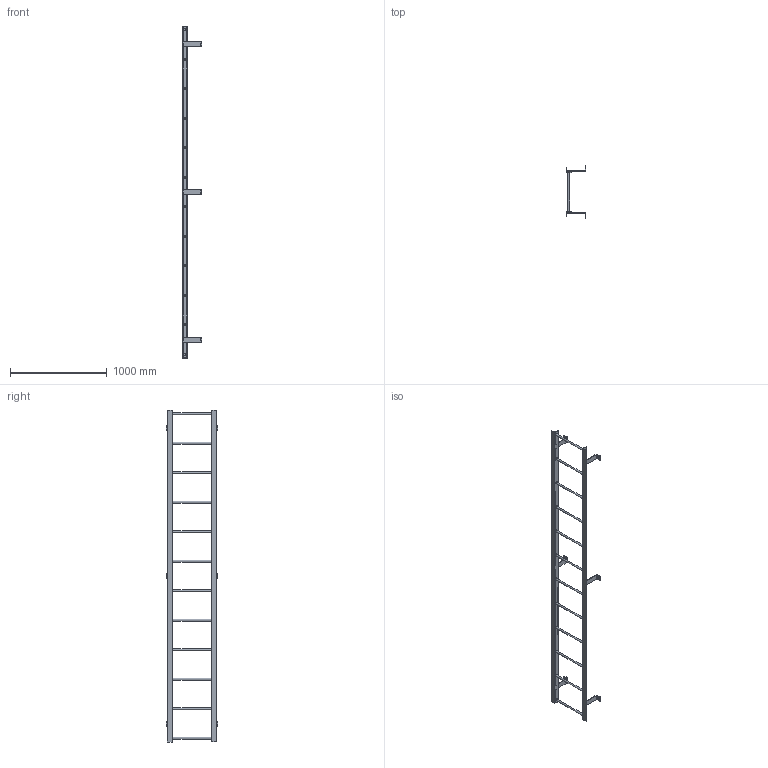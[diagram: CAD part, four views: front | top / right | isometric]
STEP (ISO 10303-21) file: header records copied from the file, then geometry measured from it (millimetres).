
FILE_DESCRIPTION(/* description */ (''),/* implementation_level */ '2;1');
FILE_NAME(/* name */ 'P:\MIKEL & KAREN\3570212 F12S SIMPLIFIED PART.stp',/* time_stamp */ '2018-07-02T15:27:59-04:00',/* author */ ('stephanie'),/* organization */ (''),/* preprocessor_version */ 'ST-DEVELOPER v16.1',/* originating_system */ 'Autodesk Inventor 2016',/* authorisation */ '');
FILE_SCHEMA (('AUTOMOTIVE_DESIGN { 1 0 10303 214 3 1 1 }'));
Length unit declared in the file: centimetre
Products named in the file (1): 3570212 F12S SIMPLIFIED PART
Bounding box: 203.33 x 533.25 x 3429 mm (x, y, z)
Volume: 6012370.8 mm3; surface area: 1803621.8 mm2
Topology: 14 solids, 14 shells, 168 faces, 438 edges, 298 vertices
Faces by surface type: plane 95, cylinder 73
Full cylindrical faces by diameter (mm): 14.287 x6, 19.05 x12, 22.225 x24
Entity records: 5064 total; most frequent: DIRECTION 862, CARTESIAN_POINT 803, ORIENTED_EDGE 732, EDGE_CURVE 366, AXIS2_PLACEMENT_3D 327, EDGE_LOOP 270, VERTEX_POINT 268, LINE 208
